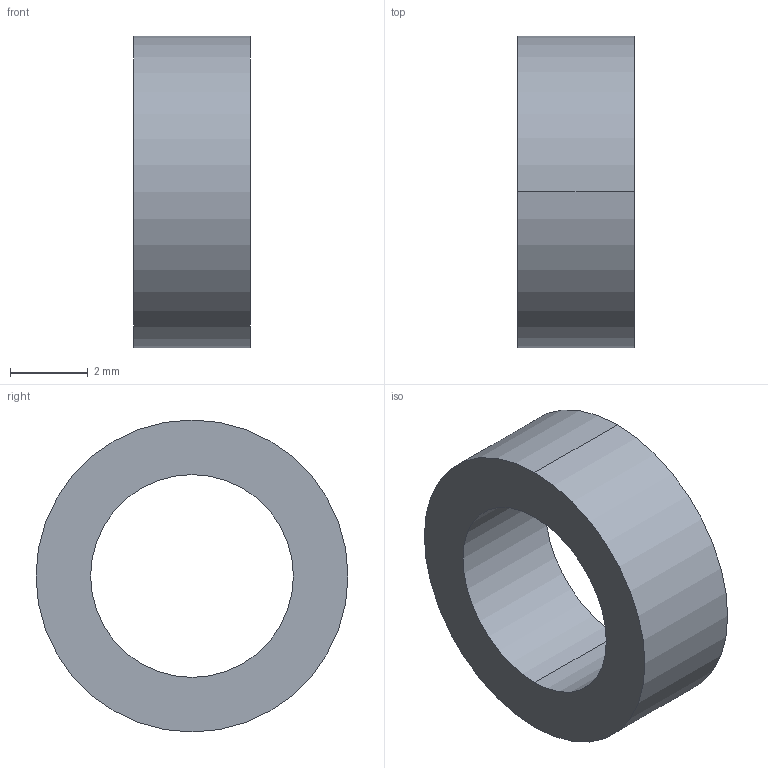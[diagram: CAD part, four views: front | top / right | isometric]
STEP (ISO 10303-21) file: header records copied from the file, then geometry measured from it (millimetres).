
FILE_DESCRIPTION (( 'STEP AP214' ), '1' );
FILE_NAME ('GZ21.27_V1絳砃謫階杶.STEP', '2021-02-28T09:08:58', ( 'hp' ), ( '' ), 'SwSTEP 2.0', 'SolidWorks 2017', '' );
FILE_SCHEMA (( 'AUTOMOTIVE_DESIGN' ));
Length unit declared in the file: millimetre
Products named in the file (1): GZ21.27_V1絳砃謫階杶
Bounding box: 3 x 8 x 8 mm (x, y, z)
Volume: 87.1 mm3; surface area: 182.5 mm2
Topology: 1 solids, 1 shells, 6 faces, 12 edges, 8 vertices
Faces by surface type: cylinder 4, plane 2
Entity records: 202 total; most frequent: DIRECTION 34, CARTESIAN_POINT 27, ORIENTED_EDGE 24, AXIS2_PLACEMENT_3D 15, EDGE_CURVE 12, EDGE_LOOP 8, CIRCLE 8, VERTEX_POINT 8
